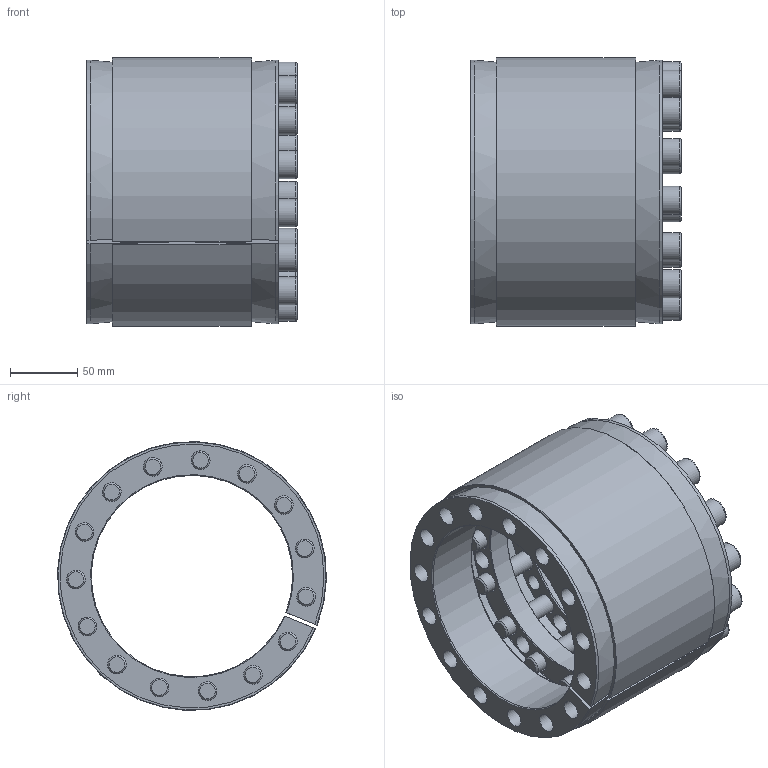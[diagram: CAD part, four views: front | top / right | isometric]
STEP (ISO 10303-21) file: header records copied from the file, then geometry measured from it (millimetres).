
FILE_DESCRIPTION((''),'2;1');
FILE_NAME('M:\Disegni 3D\CALETTATORI\RCK 11\150x200 - 06110150\Assieme chiuso.stp','2015-12-16T11:59:27',('fabietto'),(''),'Autodesk Inventor 2013','Autodesk Inventor 2013','');
FILE_SCHEMA(('AUTOMOTIVE_DESIGN { 1 0 10303 214 1 1 1 1 }'));
Length unit declared in the file: millimetre
Products named in the file (5): Assieme chiuso; Anello esterno; DIN 912 - sostituito da DIN EN ISO 4762 M14 x 90; Tronco; Tronco2
Assembly tree (18 placements, depth 2):
  Assieme chiuso
    Anello esterno
    DIN 912 - sostituito da DIN EN ISO 4762 M14 x 90  x15
    Tronco
    Tronco2
Bounding box: 156.84 x 200.38 x 200.32 mm (x, y, z)
Volume: 1306092.7 mm3; surface area: 457214.6 mm2
Topology: 18 solids, 18 shells, 339 faces, 843 edges, 532 vertices
Faces by surface type: plane 156, cylinder 109, cone 42, torus 32
Full cylindrical faces by diameter (mm): 11.835 x7, 14 x43, 14.5 x7, 16 x31, 21 x15
Entity records: 5105 total; most frequent: CARTESIAN_POINT 1300, DIRECTION 790, ORIENTED_EDGE 630, AXIS2_PLACEMENT_3D 363, EDGE_LOOP 318, EDGE_CURVE 315, VERTEX_POINT 251, CIRCLE 211
